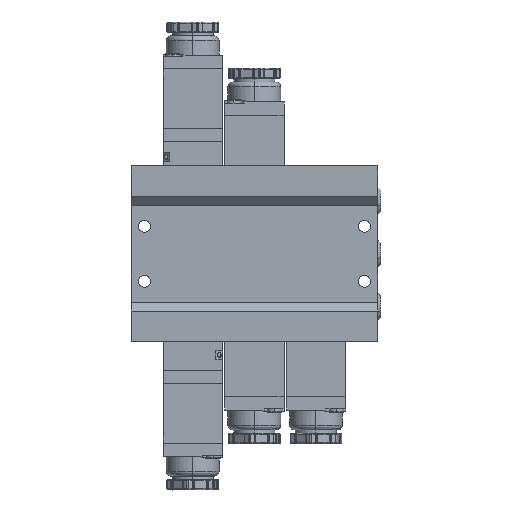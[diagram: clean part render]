
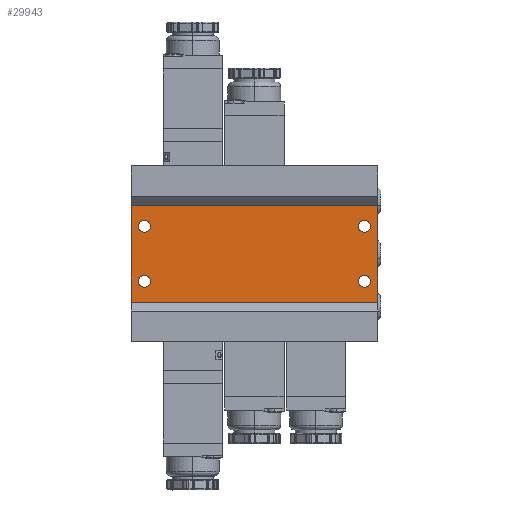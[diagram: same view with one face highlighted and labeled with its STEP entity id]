
A CAD part, front view. The second image highlights one B-rep face of the part: STEP entity #29943.
In plain terms, the highlighted planar face has unit normal (0, -1, 0).
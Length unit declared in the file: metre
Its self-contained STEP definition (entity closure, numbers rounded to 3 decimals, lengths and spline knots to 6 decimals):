
#3 = CARTESIAN_POINT ( 'NONE',  ( -0.056, -0.0175, -0.022 ) ) ;
#90 = LINE ( 'NONE', #11510, #18959 ) ;
#288 = CARTESIAN_POINT ( 'NONE',  ( -0.056, -0.0175, 0. ) ) ;
#319 = CARTESIAN_POINT ( 'NONE',  ( -0.05, -0.0175, 0.0125 ) ) ;
#777 = EDGE_CURVE ( 'NONE', #23236, #19058, #18054, .T. ) ;
#1787 = CARTESIAN_POINT ( 'NONE',  ( -0.056, -0.0175, 0.022 ) ) ;
#1947 = DIRECTION ( 'NONE',  ( 0., 0., 1. ) ) ;
#2778 = DIRECTION ( 'NONE',  ( 0., 0., 1. ) ) ;
#3046 = VERTEX_POINT ( 'NONE', #29241 ) ;
#3152 = CIRCLE ( 'NONE', #22915, 0.00275 ) ;
#3188 = ORIENTED_EDGE ( 'NONE', *, *, #23847, .F. ) ;
#3800 = ORIENTED_EDGE ( 'NONE', *, *, #30899, .F. ) ;
#3965 = VERTEX_POINT ( 'NONE', #4958 ) ;
#4278 = CARTESIAN_POINT ( 'NONE',  ( 0.05, -0.0175, -0.0125 ) ) ;
#4352 = DIRECTION ( 'NONE',  ( 0., -1., 0. ) ) ;
#4413 = AXIS2_PLACEMENT_3D ( 'NONE', #319, #17539, #2778 ) ;
#4420 = DIRECTION ( 'NONE',  ( 0., -1., 0. ) ) ;
#4454 = DIRECTION ( 'NONE',  ( 0., 0., 1. ) ) ;
#4862 = EDGE_CURVE ( 'NONE', #20829, #12515, #18378, .T. ) ;
#4958 = CARTESIAN_POINT ( 'NONE',  ( -0.056, -0.0175, -0.022 ) ) ;
#4960 = DIRECTION ( 'NONE',  ( 0., 0., 1. ) ) ;
#6241 = CIRCLE ( 'NONE', #13922, 0.00275 ) ;
#6278 = DIRECTION ( 'NONE',  ( 0., -1., 0. ) ) ;
#6480 = VERTEX_POINT ( 'NONE', #31622 ) ;
#6769 = AXIS2_PLACEMENT_3D ( 'NONE', #19158, #4420, #21654 ) ;
#7004 = ORIENTED_EDGE ( 'NONE', *, *, #23024, .F. ) ;
#7170 = ORIENTED_EDGE ( 'NONE', *, *, #777, .F. ) ;
#7484 = CARTESIAN_POINT ( 'NONE',  ( 0.05, -0.0175, 0.00975 ) ) ;
#7599 = EDGE_CURVE ( 'NONE', #3965, #19816, #14488, .T. ) ;
#7818 = CIRCLE ( 'NONE', #20152, 0.00275 ) ;
#9132 = EDGE_LOOP ( 'NONE', ( #27232, #24731, #3188, #3800 ) ) ;
#9137 = AXIS2_PLACEMENT_3D ( 'NONE', #4278, #4352, #4454 ) ;
#9150 = CARTESIAN_POINT ( 'NONE',  ( -0.05, -0.0175, -0.0125 ) ) ;
#9492 = DIRECTION ( 'NONE',  ( 0., -1., 0. ) ) ;
#9655 = VERTEX_POINT ( 'NONE', #11696 ) ;
#9879 = EDGE_CURVE ( 'NONE', #10719, #6480, #7818, .T. ) ;
#10376 = DIRECTION ( 'NONE',  ( 0., -1., 0. ) ) ;
#10719 = VERTEX_POINT ( 'NONE', #7484 ) ;
#10728 = CARTESIAN_POINT ( 'NONE',  ( 0.05, -0.0175, -0.01525 ) ) ;
#10842 = VERTEX_POINT ( 'NONE', #20244 ) ;
#11002 = ORIENTED_EDGE ( 'NONE', *, *, #25467, .F. ) ;
#11123 = EDGE_CURVE ( 'NONE', #6480, #10719, #3152, .T. ) ;
#11510 = CARTESIAN_POINT ( 'NONE',  ( 0.056, -0.0175, 0. ) ) ;
#11602 = DIRECTION ( 'NONE',  ( 0., 0., 1. ) ) ;
#11696 = CARTESIAN_POINT ( 'NONE',  ( 0.056, -0.0175, -0.022 ) ) ;
#11702 = ORIENTED_EDGE ( 'NONE', *, *, #4862, .F. ) ;
#11734 = EDGE_CURVE ( 'NONE', #12515, #20829, #6241, .T. ) ;
#12352 = EDGE_CURVE ( 'NONE', #19816, #16956, #21578, .T. ) ;
#12515 = VERTEX_POINT ( 'NONE', #24120 ) ;
#13781 = DIRECTION ( 'NONE',  ( 1., 0., 0. ) ) ;
#13881 = CARTESIAN_POINT ( 'NONE',  ( 0., -0.0175, 0.022 ) ) ;
#13922 = AXIS2_PLACEMENT_3D ( 'NONE', #9150, #26260, #11602 ) ;
#14308 = VECTOR ( 'NONE', #13781, 1. ) ;
#14488 = LINE ( 'NONE', #288, #27453 ) ;
#14531 = LINE ( 'NONE', #22806, #21814 ) ;
#14792 = CARTESIAN_POINT ( 'NONE',  ( 0.05, -0.0175, 0.0125 ) ) ;
#16009 = EDGE_LOOP ( 'NONE', ( #7170, #7004 ) ) ;
#16352 = FACE_OUTER_BOUND ( 'NONE', #9132, .T. ) ;
#16421 = EDGE_LOOP ( 'NONE', ( #23136, #26425 ) ) ;
#16732 = DIRECTION ( 'NONE',  ( 0., -1., 0. ) ) ;
#16956 = VERTEX_POINT ( 'NONE', #23496 ) ;
#17049 = EDGE_CURVE ( 'NONE', #10842, #3046, #20221, .T. ) ;
#17098 = FACE_BOUND ( 'NONE', #16421, .T. ) ;
#17222 = DIRECTION ( 'NONE',  ( 0., 0., 1. ) ) ;
#17512 = DIRECTION ( 'NONE',  ( 0., 0., 1. ) ) ;
#17539 = DIRECTION ( 'NONE',  ( 0., -1., 0. ) ) ;
#17653 = AXIS2_PLACEMENT_3D ( 'NONE', #3, #19693, #4960 ) ;
#17872 = EDGE_LOOP ( 'NONE', ( #17901, #11702 ) ) ;
#17901 = ORIENTED_EDGE ( 'NONE', *, *, #11734, .F. ) ;
#18054 = CIRCLE ( 'NONE', #9137, 0.00275 ) ;
#18378 = CIRCLE ( 'NONE', #26761, 0.00275 ) ;
#18649 = EDGE_LOOP ( 'NONE', ( #11002, #26961 ) ) ;
#18959 = VECTOR ( 'NONE', #26172, 1. ) ;
#19058 = VERTEX_POINT ( 'NONE', #10728 ) ;
#19158 = CARTESIAN_POINT ( 'NONE',  ( -0.05, -0.0175, 0.0125 ) ) ;
#19693 = DIRECTION ( 'NONE',  ( 0., 1., 0. ) ) ;
#19816 = VERTEX_POINT ( 'NONE', #1787 ) ;
#20152 = AXIS2_PLACEMENT_3D ( 'NONE', #24149, #9492, #26584 ) ;
#20221 = CIRCLE ( 'NONE', #6769, 0.00275 ) ;
#20244 = CARTESIAN_POINT ( 'NONE',  ( -0.05, -0.0175, 0.00975 ) ) ;
#20646 = CIRCLE ( 'NONE', #23148, 0.00275 ) ;
#20829 = VERTEX_POINT ( 'NONE', #26006 ) ;
#21578 = LINE ( 'NONE', #13881, #14308 ) ;
#21654 = DIRECTION ( 'NONE',  ( 0., 0., 1. ) ) ;
#21814 = VECTOR ( 'NONE', #29949, 1. ) ;
#22806 = CARTESIAN_POINT ( 'NONE',  ( 0., -0.0175, -0.022 ) ) ;
#22867 = FACE_BOUND ( 'NONE', #18649, .T. ) ;
#22915 = AXIS2_PLACEMENT_3D ( 'NONE', #14792, #6278, #17222 ) ;
#23024 = EDGE_CURVE ( 'NONE', #19058, #23236, #20646, .T. ) ;
#23136 = ORIENTED_EDGE ( 'NONE', *, *, #11123, .F. ) ;
#23148 = AXIS2_PLACEMENT_3D ( 'NONE', #31240, #16732, #1947 ) ;
#23236 = VERTEX_POINT ( 'NONE', #25154 ) ;
#23496 = CARTESIAN_POINT ( 'NONE',  ( 0.056, -0.0175, 0.022 ) ) ;
#23624 = FACE_BOUND ( 'NONE', #16009, .T. ) ;
#23847 = EDGE_CURVE ( 'NONE', #9655, #3965, #14531, .T. ) ;
#24120 = CARTESIAN_POINT ( 'NONE',  ( -0.05, -0.0175, -0.00975 ) ) ;
#24149 = CARTESIAN_POINT ( 'NONE',  ( 0.05, -0.0175, 0.0125 ) ) ;
#24731 = ORIENTED_EDGE ( 'NONE', *, *, #7599, .F. ) ;
#25041 = CARTESIAN_POINT ( 'NONE',  ( -0.05, -0.0175, -0.0125 ) ) ;
#25154 = CARTESIAN_POINT ( 'NONE',  ( 0.05, -0.0175, -0.00975 ) ) ;
#25467 = EDGE_CURVE ( 'NONE', #3046, #10842, #25946, .T. ) ;
#25946 = CIRCLE ( 'NONE', #4413, 0.00275 ) ;
#26006 = CARTESIAN_POINT ( 'NONE',  ( -0.05, -0.0175, -0.01525 ) ) ;
#26172 = DIRECTION ( 'NONE',  ( 0., 0., -1. ) ) ;
#26260 = DIRECTION ( 'NONE',  ( 0., -1., 0. ) ) ;
#26425 = ORIENTED_EDGE ( 'NONE', *, *, #9879, .F. ) ;
#26584 = DIRECTION ( 'NONE',  ( 0., 0., 1. ) ) ;
#26761 = AXIS2_PLACEMENT_3D ( 'NONE', #25041, #10376, #27455 ) ;
#26954 = PLANE ( 'NONE',  #17653 ) ;
#26961 = ORIENTED_EDGE ( 'NONE', *, *, #17049, .F. ) ;
#27232 = ORIENTED_EDGE ( 'NONE', *, *, #12352, .F. ) ;
#27453 = VECTOR ( 'NONE', #17512, 1. ) ;
#27455 = DIRECTION ( 'NONE',  ( 0., 0., 1. ) ) ;
#29241 = CARTESIAN_POINT ( 'NONE',  ( -0.05, -0.0175, 0.01525 ) ) ;
#29255 = FACE_BOUND ( 'NONE', #17872, .T. ) ;
#29943 = ADVANCED_FACE ( 'NONE', ( #29255, #17098, #23624, #22867, #16352 ), #26954, .F. ) ;
#29949 = DIRECTION ( 'NONE',  ( -1., 0., 0. ) ) ;
#30899 = EDGE_CURVE ( 'NONE', #16956, #9655, #90, .T. ) ;
#31240 = CARTESIAN_POINT ( 'NONE',  ( 0.05, -0.0175, -0.0125 ) ) ;
#31622 = CARTESIAN_POINT ( 'NONE',  ( 0.05, -0.0175, 0.01525 ) ) ;
